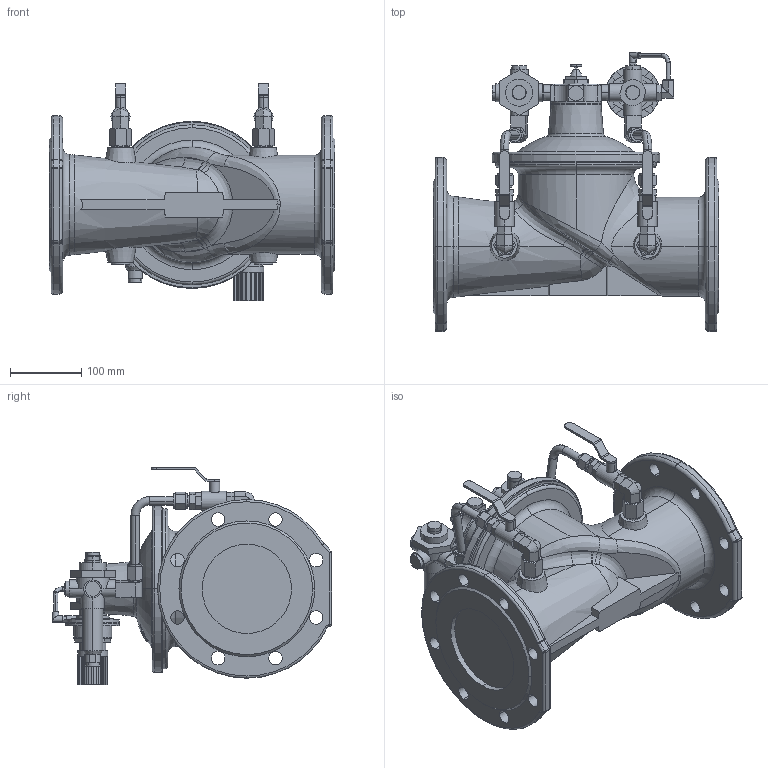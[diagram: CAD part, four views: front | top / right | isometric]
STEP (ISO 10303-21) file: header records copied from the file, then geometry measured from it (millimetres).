
FILE_DESCRIPTION (( 'STEP AP203' ), '1' );
FILE_NAME ('O_859_00_DN125_1XXXX00_REV01.step', '2020-11-17T11:58:17', ( '' ), ( '' ), 'SwSTEP 2.0', 'SolidWorks 2019', '' );
FILE_SCHEMA (( 'CONFIG_CONTROL_DESIGN' ));
Length unit declared in the file: millimetre
Products named in the file (1): O_859_00_DN125_1XXXX00_REV01
Bounding box: 400 x 390.53 x 304.79 mm (x, y, z)
Volume: 9754114.9 mm3; surface area: 601875.6 mm2
Topology: 1 solids, 1 shells, 969 faces, 2403 edges, 1503 vertices
Faces by surface type: plane 521, cylinder 289, cone 68, torus 60, bspline 27, sphere 4
Entity records: 32699 total; most frequent: CARTESIAN_POINT 9783, ORIENTED_EDGE 4790, DIRECTION 4741, EDGE_CURVE 2395, AXIS2_PLACEMENT_3D 1747, VERTEX_POINT 1503, VECTOR 1247, LINE 1247
